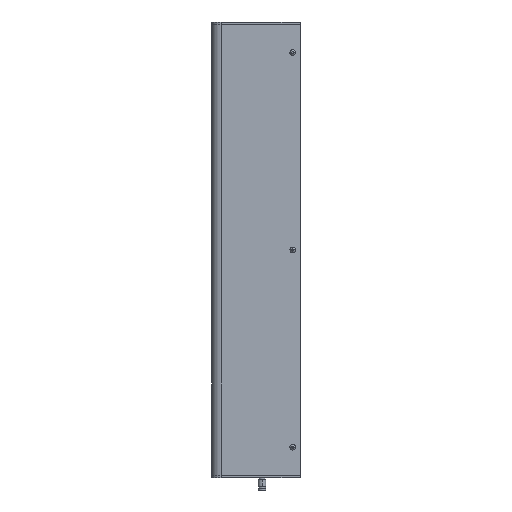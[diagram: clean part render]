
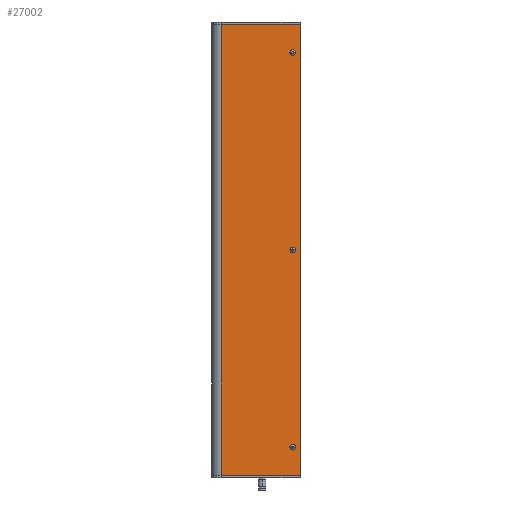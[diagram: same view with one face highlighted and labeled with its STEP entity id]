
A CAD part, left-side view. The second image highlights one B-rep face of the part: STEP entity #27002.
In plain terms, the highlighted planar face has unit normal (-1, 0, 0).
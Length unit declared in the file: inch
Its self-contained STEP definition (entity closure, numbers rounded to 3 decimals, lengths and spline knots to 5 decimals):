
#898 = CARTESIAN_POINT ( 'NONE',  ( -5.74036, 0.99721, -10.76565 ) ) ;
#2142 = DIRECTION ( 'NONE',  ( 0., 0., 1. ) ) ;
#3626 = CIRCLE ( 'NONE', #41746, 0.14665 ) ;
#4411 = EDGE_CURVE ( 'Defeatured_13_13+Defeatured_13_12+Defeatured_13_22+Defeatured_13_23', #20247, #30254, #32315, .T. ) ;
#4447 = CIRCLE ( 'NONE', #50420, 0.14357 ) ;
#5592 = ORIENTED_EDGE ( 'NONE', *, *, #26634, .F. ) ;
#5700 = AXIS2_PLACEMENT_3D ( 'NONE', #30583, #15294, #19241 ) ;
#6162 = CIRCLE ( 'NONE', #32102, 0.14665 ) ;
#6514 = ORIENTED_EDGE ( 'NONE', *, *, #29342, .F. ) ;
#7536 = FACE_BOUND ( 'NONE', #32796, .T. ) ;
#7659 = ORIENTED_EDGE ( 'NONE', *, *, #15215, .F. ) ;
#7684 = DIRECTION ( 'NONE',  ( 0., -1., 0. ) ) ;
#8758 = FACE_OUTER_BOUND ( 'NONE', #20853, .T. ) ;
#8793 = VERTEX_POINT ( 'NONE', #17511 ) ;
#8905 = DIRECTION ( 'NONE',  ( 0., 0., 1. ) ) ;
#9097 = VECTOR ( 'NONE', #41007, 39.37008 ) ;
#9263 = VECTOR ( 'NONE', #7684, 39.37008 ) ;
#10591 = PLANE ( 'NONE',  #27747 ) ;
#10635 = CARTESIAN_POINT ( 'NONE',  ( -5.74036, 0.85056, -10.76565 ) ) ;
#11515 = DIRECTION ( 'NONE',  ( 0., 0., 1. ) ) ;
#11554 = CARTESIAN_POINT ( 'NONE',  ( -5.74036, 0.85056, -0.3751 ) ) ;
#11791 = EDGE_CURVE ( 'Defeatured_13_23+Defeatured_13_13+Defeatured_13_18+Defeatured_13_12', #28995, #30254, #36573, .T. ) ;
#12091 = EDGE_CURVE ( 'Defeatured_13_401+Defeatured_13_13+Defeatured_13_13+Defeatured_13_13', #38969, #21801, #29762, .T. ) ;
#12412 = EDGE_LOOP ( 'NONE', ( #25756, #24967 ) ) ;
#12615 = ORIENTED_EDGE ( 'NONE', *, *, #12091, .F. ) ;
#13007 = CARTESIAN_POINT ( 'NONE',  ( -5.74036, 0.85056, -10.76565 ) ) ;
#14189 = CARTESIAN_POINT ( 'NONE',  ( -5.74036, 0.45686, -12.2351 ) ) ;
#15215 = EDGE_CURVE ( 'Defeatured_13_409+Defeatured_13_13+Defeatured_13_13+Defeatured_13_13', #38998, #39655, #6162, .T. ) ;
#15294 = DIRECTION ( 'NONE',  ( -1., 0., 0. ) ) ;
#15295 = CARTESIAN_POINT ( 'NONE',  ( -5.74036, 0.85056, -0.3751 ) ) ;
#16230 = CARTESIAN_POINT ( 'NONE',  ( -5.74036, 0.85056, 10.01545 ) ) ;
#16730 = CARTESIAN_POINT ( 'NONE',  ( -5.74036, 0.99721, 10.01545 ) ) ;
#16984 = DIRECTION ( 'NONE',  ( -1., 0., 0. ) ) ;
#17458 = ORIENTED_EDGE ( 'NONE', *, *, #11791, .F. ) ;
#17492 = VECTOR ( 'NONE', #47345, 39.37008 ) ;
#17511 = CARTESIAN_POINT ( 'NONE',  ( -5.74036, 0.70698, -0.3751 ) ) ;
#18634 = CIRCLE ( 'NONE', #23464, 0.14665 ) ;
#18709 = DIRECTION ( 'NONE',  ( -1., 0., 0. ) ) ;
#19241 = DIRECTION ( 'NONE',  ( 0., 0., 1. ) ) ;
#19567 = LINE ( 'NONE', #45125, #9097 ) ;
#20247 = VERTEX_POINT ( 'NONE', #14189 ) ;
#20853 = EDGE_LOOP ( 'NONE', ( #17458, #6514, #24477, #29736 ) ) ;
#21249 = VECTOR ( 'NONE', #45451, 39.37008 ) ;
#21801 = VERTEX_POINT ( 'NONE', #38097 ) ;
#22029 = EDGE_CURVE ( 'Defeatured_13_401+Defeatured_13_13+Defeatured_13_13+Defeatured_13_13', #21801, #38969, #3626, .T. ) ;
#23021 = CARTESIAN_POINT ( 'NONE',  ( -5.74036, 4.60886, 11.4999 ) ) ;
#23434 = LINE ( 'NONE', #35521, #9263 ) ;
#23464 = AXIS2_PLACEMENT_3D ( 'NONE', #10635, #18709, #46729 ) ;
#23708 = CARTESIAN_POINT ( 'NONE',  ( -5.74036, 0.45686, 11.4999 ) ) ;
#24159 = DIRECTION ( 'NONE',  ( 0., 0., 1. ) ) ;
#24477 = ORIENTED_EDGE ( 'NONE', *, *, #40997, .T. ) ;
#24967 = ORIENTED_EDGE ( 'NONE', *, *, #39944, .F. ) ;
#25611 = CARTESIAN_POINT ( 'NONE',  ( -5.74036, 0.7039, -10.76565 ) ) ;
#25756 = ORIENTED_EDGE ( 'NONE', *, *, #31645, .F. ) ;
#26634 = EDGE_CURVE ( 'Defeatured_13_409+Defeatured_13_13+Defeatured_13_13+Defeatured_13_13', #39655, #38998, #18634, .T. ) ;
#27002 = ADVANCED_FACE ( 'Defeatured_13_13', ( #28437, #8758, #34552, #7536 ), #10591, .T. ) ;
#27747 = AXIS2_PLACEMENT_3D ( 'NONE', #37903, #30166, #2142 ) ;
#28437 = FACE_BOUND ( 'NONE', #42614, .T. ) ;
#28960 = CARTESIAN_POINT ( 'NONE',  ( -5.74036, 4.60886, -12.2351 ) ) ;
#28995 = VERTEX_POINT ( 'NONE', #23021 ) ;
#29342 = EDGE_CURVE ( 'Defeatured_13_18+Defeatured_13_13+Defeatured_13_22+Defeatured_13_23', #41197, #28995, #19567, .T. ) ;
#29736 = ORIENTED_EDGE ( 'NONE', *, *, #4411, .T. ) ;
#29762 = CIRCLE ( 'NONE', #5700, 0.14665 ) ;
#29846 = CIRCLE ( 'NONE', #41245, 0.14357 ) ;
#30166 = DIRECTION ( 'NONE',  ( -1., 0., 0. ) ) ;
#30254 = VERTEX_POINT ( 'NONE', #23708 ) ;
#30583 = CARTESIAN_POINT ( 'NONE',  ( -5.74036, 0.85056, 10.01545 ) ) ;
#31645 = EDGE_CURVE ( 'Defeatured_13_393+Defeatured_13_13+Defeatured_13_13+Defeatured_13_13', #8793, #46982, #29846, .T. ) ;
#32102 = AXIS2_PLACEMENT_3D ( 'NONE', #13007, #16984, #8905 ) ;
#32315 = LINE ( 'NONE', #49425, #21249 ) ;
#32796 = EDGE_LOOP ( 'NONE', ( #5592, #7659 ) ) ;
#34552 = FACE_BOUND ( 'NONE', #12412, .T. ) ;
#35261 = DIRECTION ( 'NONE',  ( 0., 0., 1. ) ) ;
#35521 = CARTESIAN_POINT ( 'NONE',  ( -5.74036, 0.45686, -12.2351 ) ) ;
#36573 = LINE ( 'NONE', #50987, #17492 ) ;
#37903 = CARTESIAN_POINT ( 'NONE',  ( -5.74036, 0.45686, -12.2351 ) ) ;
#38097 = CARTESIAN_POINT ( 'NONE',  ( -5.74036, 0.7039, 10.01545 ) ) ;
#38969 = VERTEX_POINT ( 'NONE', #16730 ) ;
#38998 = VERTEX_POINT ( 'NONE', #898 ) ;
#39655 = VERTEX_POINT ( 'NONE', #25611 ) ;
#39944 = EDGE_CURVE ( 'Defeatured_13_393+Defeatured_13_13+Defeatured_13_13+Defeatured_13_13', #46982, #8793, #4447, .T. ) ;
#40997 = EDGE_CURVE ( 'Defeatured_13_13+Defeatured_13_22+Defeatured_13_18+Defeatured_13_12', #41197, #20247, #23434, .T. ) ;
#41007 = DIRECTION ( 'NONE',  ( 0., 0., 1. ) ) ;
#41197 = VERTEX_POINT ( 'NONE', #28960 ) ;
#41245 = AXIS2_PLACEMENT_3D ( 'NONE', #11554, #51119, #35261 ) ;
#41746 = AXIS2_PLACEMENT_3D ( 'NONE', #16230, #43392, #24159 ) ;
#42614 = EDGE_LOOP ( 'NONE', ( #44682, #12615 ) ) ;
#43392 = DIRECTION ( 'NONE',  ( -1., 0., 0. ) ) ;
#44366 = CARTESIAN_POINT ( 'NONE',  ( -5.74036, 0.99413, -0.3751 ) ) ;
#44682 = ORIENTED_EDGE ( 'NONE', *, *, #22029, .F. ) ;
#45125 = CARTESIAN_POINT ( 'NONE',  ( -5.74036, 4.60886, -12.2351 ) ) ;
#45451 = DIRECTION ( 'NONE',  ( 0., 0., 1. ) ) ;
#46729 = DIRECTION ( 'NONE',  ( 0., 0., 1. ) ) ;
#46759 = DIRECTION ( 'NONE',  ( -1., 0., 0. ) ) ;
#46982 = VERTEX_POINT ( 'NONE', #44366 ) ;
#47345 = DIRECTION ( 'NONE',  ( 0., -1., 0. ) ) ;
#49425 = CARTESIAN_POINT ( 'NONE',  ( -5.74036, 0.45686, -12.2351 ) ) ;
#50420 = AXIS2_PLACEMENT_3D ( 'NONE', #15295, #46759, #11515 ) ;
#50987 = CARTESIAN_POINT ( 'NONE',  ( -5.74036, 0.45686, 11.4999 ) ) ;
#51119 = DIRECTION ( 'NONE',  ( -1., 0., 0. ) ) ;
